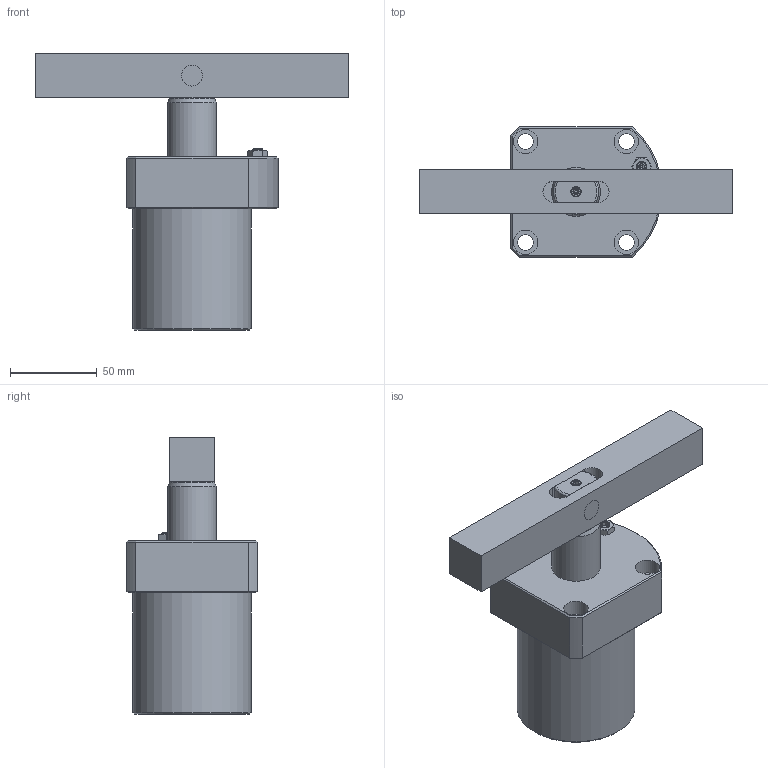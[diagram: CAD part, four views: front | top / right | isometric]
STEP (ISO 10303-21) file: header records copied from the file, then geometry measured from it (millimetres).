
FILE_DESCRIPTION(/* description */ ('Unknown'),/* implementation_level */ '2;1');
FILE_NAME(/* name */ 'HSC-FCM50D-B',/* time_stamp */ '2019-05-23T08:34:45+08:00',/* author */ ('Unknown'),/* organization */ ('Unknown'),/* preprocessor_version */ 'ST-DEVELOPER v16.7',/* originating_system */ 'DEX',/* authorisation */ $);
FILE_SCHEMA (('AUTOMOTIVE_DESIGN {1 0 10303 214 3 1 1}'));
Length unit declared in the file: millimetre
Products named in the file (5): HSC-FCM50D-B; HSC-FCM50D-CYLINDER; HSC-5002-D-AXLE CENTRE; HSC-5002-D-FIXED PIN; HSC-50D-B
Assembly tree (4 placements, depth 2):
  HSC-FCM50D-B
    HSC-FCM50D-CYLINDER
    HSC-5002-D-AXLE CENTRE
    HSC-5002-D-FIXED PIN
    HSC-50D-B
Bounding box: 180 x 75 x 159.4 mm (x, y, z)
Volume: 500562.7 mm3; surface area: 89244.8 mm2
Topology: 4 solids, 4 shells, 144 faces, 304 edges, 189 vertices
Faces by surface type: plane 60, cone 31, cylinder 31, bspline 18, torus 4
Full cylindrical faces by diameter (mm): 3 x2, 4.1 x2, 6 x1, 9 x4, 12 x6, 14 x4, 28 x2, 50 x2, 68 x1
Entity records: 3949 total; most frequent: CARTESIAN_POINT 1051, DIRECTION 546, ORIENTED_EDGE 506, EDGE_CURVE 253, AXIS2_PLACEMENT_3D 238, EDGE_LOOP 220, FACE_BOUND 220, VERTEX_POINT 177
